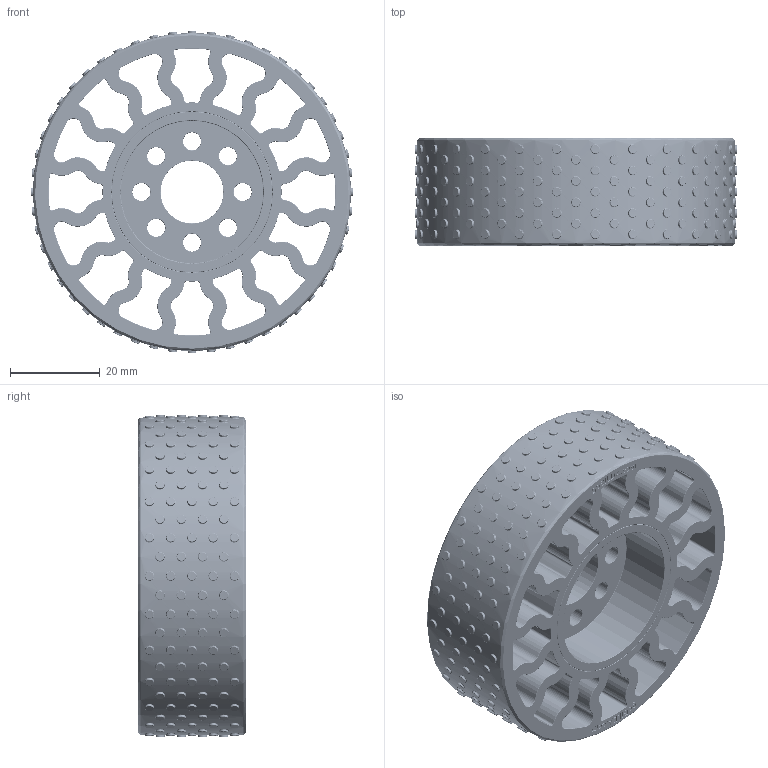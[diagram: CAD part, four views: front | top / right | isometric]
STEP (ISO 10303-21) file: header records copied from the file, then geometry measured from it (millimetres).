
FILE_DESCRIPTION(/* description */ (''),/* implementation_level */ '2;1');
FILE_NAME(/* name */ '3632-0014-0072.step',/* time_stamp */ '2026-09-03T09:39:56-05:00',/* author */ (''),/* organization */ (''),/* preprocessor_version */ 'ST-DEVELOPER v20.1',/* originating_system */ 'Autodesk Translation Framework v15.8.0.0',/* authorisation */ '');
FILE_SCHEMA (('AUTOMOTIVE_DESIGN { 1 0 10303 214 3 1 1 }'));
Products named in the file (1): 3613-0014-0072
Bounding box: 72 x 24 x 72 mm (x, y, z)
Volume: 46587.6 mm3; surface area: 34599.4 mm2
Topology: 2 solids, 2 shells, 3456 faces, 8323 edges, 5175 vertices
Faces by surface type: bspline 1692, cylinder 662, torus 574, plane 430, cone 98
Full cylindrical faces by diameter (mm): 2 x51, 4 x8, 14 x1, 32 x2, 36 x4, 38 x2, 71 x1
Entity records: 199698 total; most frequent: CARTESIAN_POINT 129586, ORIENTED_EDGE 16646, DIRECTION 10815, EDGE_CURVE 8323, VERTEX_POINT 5175, AXIS2_PLACEMENT_3D 4575, B_SPLINE_CURVE_WITH_KNOTS 3848, EDGE_LOOP 3812
